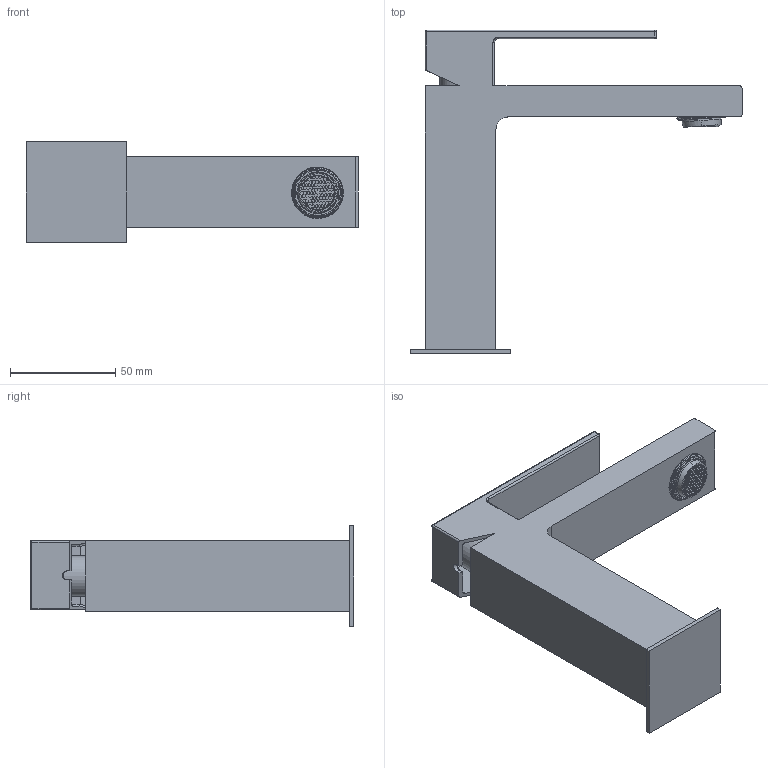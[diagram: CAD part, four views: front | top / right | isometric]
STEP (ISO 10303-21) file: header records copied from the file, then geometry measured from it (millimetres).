
FILE_DESCRIPTION (( 'STEP AP214' ), '1' );
FILE_NAME ('58301110 x architetti.STEP', '2025-01-20T10:36:30', ( '' ), ( '' ), 'SwSTEP 2.0', 'SolidWorks 2020', '' );
FILE_SCHEMA (( 'AUTOMOTIVE_DESIGN' ));
Length unit declared in the file: millimetre
Products named in the file (1): 58301110 x architetti
Bounding box: 157.9 x 153.85 x 48 mm (x, y, z)
Surface area: 48898.6 mm2 (no closed solid volume)
Topology: 0 solids, 10 shells, 1529 faces, 3877 edges, 2373 vertices
Faces by surface type: plane 860, cylinder 604, bspline 61, cone 4
Entity records: 67259 total; most frequent: CARTESIAN_POINT 17705, ORIENTED_EDGE 7644, DIRECTION 5804, EDGE_CURVE 3869, VECTOR 2436, LINE 2436, VERTEX_POINT 2373, AXIS2_PLACEMENT_3D 1684
